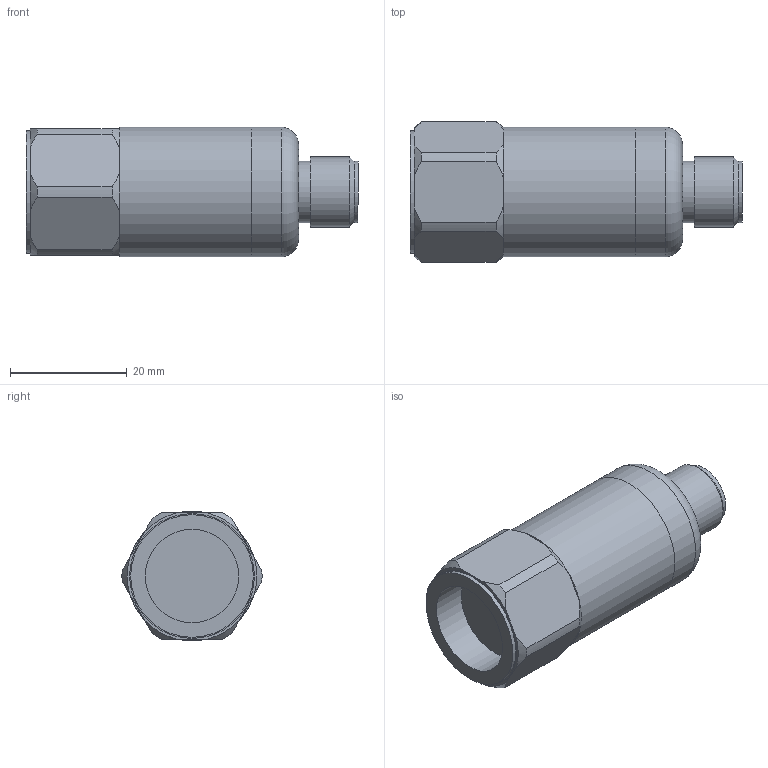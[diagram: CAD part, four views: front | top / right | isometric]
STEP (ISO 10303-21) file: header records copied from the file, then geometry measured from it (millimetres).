
FILE_DESCRIPTION(/* description */ (''),/* implementation_level */ '2;1');
FILE_NAME(/* name */ 'Z:\Engineering\Drawings\3D Library\Assemblies\Website\Premium Top\HS-150 Top M12\HS-150XXX5405.stp',/* time_stamp */ '2023-02-26T21:31:23+00:00',/* author */ ('Ricardo.Peneda'),/* organization */ (''),/* preprocessor_version */ 'ST-DEVELOPER v18.1',/* originating_system */ 'Autodesk Inventor 2021',/* authorisation */ '');
FILE_SCHEMA (('AUTOMOTIVE_DESIGN { 1 0 10303 214 3 1 1 }'));
Length unit declared in the file: inch
Products named in the file (1): HS-150XXX5405_Shrinkwrap_1
Bounding box: 56.89 x 23.99 x 22.2 mm (x, y, z)
Volume: 11842.6 mm3; surface area: 7280.5 mm2
Topology: 2 solids, 2 shells, 56 faces, 147 edges, 106 vertices
Faces by surface type: plane 27, cylinder 19, cone 9, torus 1
Full cylindrical faces by diameter (mm): 9.4 x2, 10.496 x1, 10.5 x1, 12 x1, 15.055 x1, 16 x1, 18 x1, 19.95 x1, 20 x1, 21 x1, 22.2 x2
Entity records: 1880 total; most frequent: CARTESIAN_POINT 358, DIRECTION 320, ORIENTED_EDGE 294, EDGE_CURVE 147, AXIS2_PLACEMENT_3D 140, VERTEX_POINT 106, CIRCLE 83, EDGE_LOOP 67
